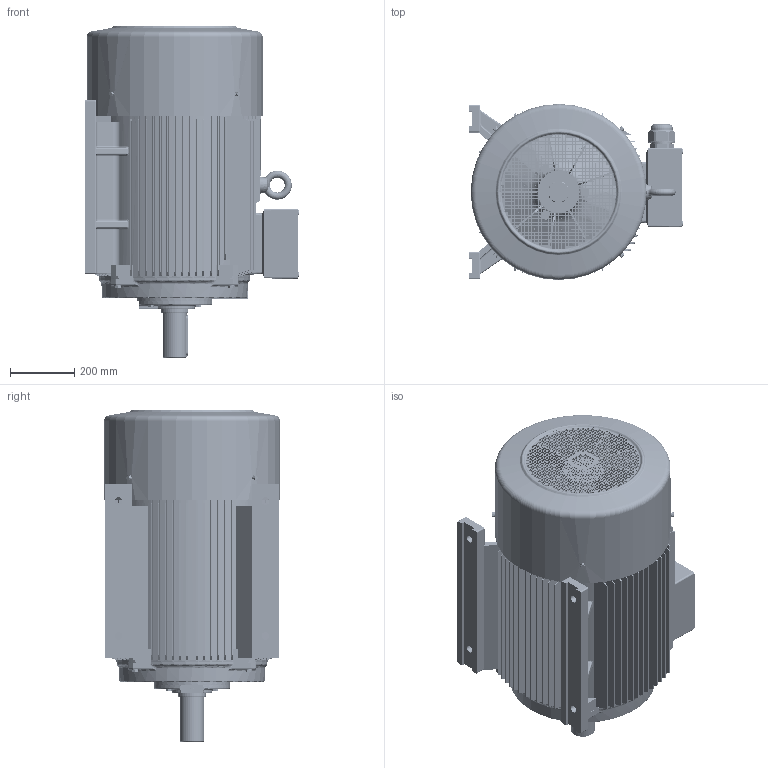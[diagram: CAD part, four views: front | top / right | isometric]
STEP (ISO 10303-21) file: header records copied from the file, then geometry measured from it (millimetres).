
FILE_DESCRIPTION(/* description */ (''),/* implementation_level */ '2;1');
FILE_NAME(/* name */ 'JM1-280M-4.6.8-B3.stp',/* time_stamp */ '2016-07-22T08:06:26+08:00',/* author */ (''),/* organization */ (''),/* preprocessor_version */ 'ST-DEVELOPER v15',/* originating_system */ 'SIEMENS PLM Software NX 8.5',/* authorisation */ '');
FILE_SCHEMA (('AUTOMOTIVE_DESIGN { 1 0 10303 214 3 1 1 1 }'));
Length unit declared in the file: millimetre
Products named in the file (1): pc0BA4C6FFouuc
Bounding box: 667.8 x 547 x 1032.48 mm (x, y, z)
Volume: 42313094.4 mm3; surface area: 8556102.1 mm2
Topology: 59 solids, 59 shells, 10037 faces, 28733 edges, 18885 vertices
Faces by surface type: plane 4650, cylinder 4362, cone 388, torus 313, bspline 300, sphere 24
Full cylindrical faces by diameter (mm): 7.188 x4, 8 x8, 8.4 x4, 9.026 x8, 10 x8, 10.863 x8, 11.2 x8, 12 x18, 12.6 x8, 16 x4, 20 x1, 24 x4, 43.312 x2, 51.188 x4, 61.031 x12, 63 x4, 64.969 x12, 67.922 x2, 83.672 x2, 85 x4, 110 x4, 180 x2, 235 x4, 440 x2, 456 x2
Entity records: 374629 total; most frequent: CARTESIAN_POINT 83897, ORIENTED_EDGE 56594, DIRECTION 55104, EDGE_CURVE 28297, AXIS2_PLACEMENT_3D 19326, VERTEX_POINT 18749, LINE 16452, VECTOR 16452
